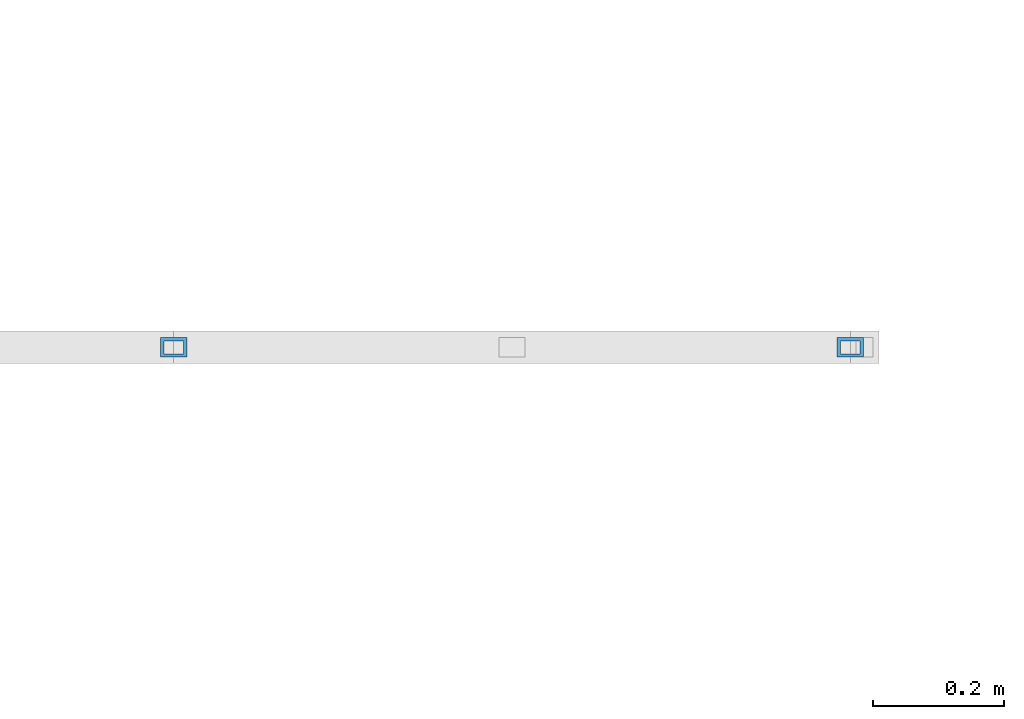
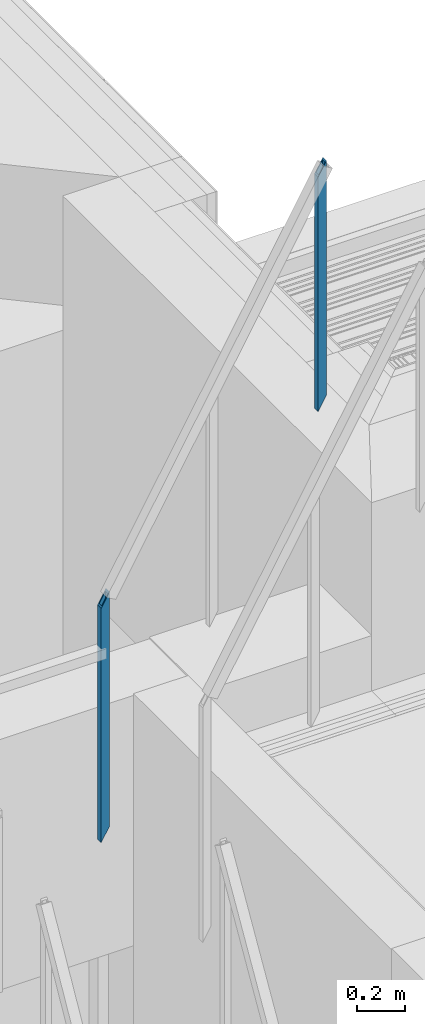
# One storey, part 10 of 418: 2 members, 1 element without a shape of its own.
"""IFC2X3 building model written with IfcOpenShell, lengths in millimetres."""

import ifcopenshell
import ifcopenshell.guid

model = None  # the IFC model being written
_history = None  # IfcOwnerHistory: only IFC2X3 demands one
_inside = {}  # id of a spatial element -> (the spatial element, [elements in it])
_under = {}  # id of a project, library or spatial element -> (it, [spatial elements below it])
_declared = {}  # id of a project -> (the project, [libraries it declares])
_typed = {}  # id of a type object -> (the type object, [elements of that type])
_made_of = {}  # id of a material, layer set ... -> (it, [elements and type objects made of it])


def new_model(schema):
    """Start an empty IFC model of exactly this schema.

    Asked for "IFC4X3", IfcOpenShell would pick the latest addendum, in which some entities
    have other attributes; the version numbers below select the first issue.
    IFC2X3 requires an IfcOwnerHistory on every rooted entity: one is made here for all.
    """
    global model, _history
    if schema == "IFC4X3":
        model = ifcopenshell.file(schema_version=(4, 3, 0, 0))
    else:
        model = ifcopenshell.file(schema=schema)
    _inside.clear()
    _under.clear()
    _declared.clear()
    _typed.clear()
    _made_of.clear()
    _history = None
    if model.schema == "IFC2X3":
        org = make("IfcOrganization", Name="unknown")
        user = make(
            "IfcPersonAndOrganization",
            ThePerson=make("IfcPerson", FamilyName="unknown"),
            TheOrganization=org,
        )
        app = make(
            "IfcApplication",
            ApplicationDeveloper=org,
            Version="unknown",
            ApplicationFullName="unknown",
            ApplicationIdentifier="unknown",
        )
        _history = make(
            "IfcOwnerHistory",
            OwningUser=user,
            OwningApplication=app,
            ChangeAction="ADDED",
            CreationDate=0,
        )
    return model


def make(cls, **values):
    """One entity of the class cls with the attributes given. An attribute that is None is left unset."""
    return model.create_entity(
        cls, **{name: value for name, value in values.items() if value is not None}
    )


def entity(cls, *values):
    """Any entity or typed value of the class cls, its attributes in the order of the schema. None: left unset."""
    e = model.create_entity(cls)
    for i, value in enumerate(values):
        if value is not None:
            e[i] = value
    return e


def rooted(cls, **values):
    """An entity with a GlobalId (a new one), such as an element, a storey or a relation."""
    return make(cls, GlobalId=ifcopenshell.guid.new(), OwnerHistory=_history, **values)


def si_unit(unit_type, name, prefix=None):
    """IfcSIUnit, for example si_unit("LENGTHUNIT", "METRE", prefix="MILLI")."""
    return make("IfcSIUnit", UnitType=unit_type, Prefix=prefix, Name=name)


def converted_unit(unit_type, name, factor, base, dimensions=None, offset=None):
    """IfcConversionBasedUnit, such as the inch: factor (a typed value) times the base unit."""
    return make(
        "IfcConversionBasedUnit"
        if offset is None
        else "IfcConversionBasedUnitWithOffset",
        ConversionOffset=offset,
        Dimensions=None
        if dimensions is None
        else entity("IfcDimensionalExponents", *dimensions),
        UnitType=unit_type,
        Name=name,
        ConversionFactor=make(
            "IfcMeasureWithUnit", ValueComponent=factor, UnitComponent=base
        ),
    )


def derived_unit(unit_type, elements):
    """IfcDerivedUnit: a product of units, each with its exponent."""
    return make(
        "IfcDerivedUnit",
        Elements=[
            make("IfcDerivedUnitElement", Unit=unit, Exponent=power)
            for unit, power in elements
        ],
        UnitType=unit_type,
    )


def money_unit(currency):
    """IfcMonetaryUnit."""
    return make("IfcMonetaryUnit", Currency=currency)


def assignment(units):
    """IfcUnitAssignment: the units of a project."""
    return None if units is None else make("IfcUnitAssignment", Units=units)


def point(xyz):
    """IfcCartesianPoint."""
    return None if xyz is None else make("IfcCartesianPoint", Coordinates=xyz)


def direction(xyz):
    """IfcDirection."""
    return None if xyz is None else make("IfcDirection", DirectionRatios=xyz)


def frame(location, z_axis=None, x_axis=None):
    """IfcAxis2Placement3D, a coordinate frame: its origin and axes. An axis left out is left unset."""
    return make(
        "IfcAxis2Placement3D",
        Location=point(location),
        Axis=direction(z_axis),
        RefDirection=direction(x_axis),
    )


def origin_with_axes():
    """The frame at (0, 0, 0) with the z axis (0, 0, 1) and the x axis (1, 0, 0) written out."""
    return frame((0.0, 0.0, 0.0), z_axis=(0.0, 0.0, 1.0), x_axis=(1.0, 0.0, 0.0))


def place(relative_to, where):
    """IfcLocalPlacement: puts the frame where relative to a parent placement (None: the world)."""
    return make(
        "IfcLocalPlacement", PlacementRelTo=relative_to, RelativePlacement=where
    )


def context(
    kind, dimensions, precision=None, world=None, true_north=None, identifier=None
):
    """IfcGeometricRepresentationContext, for example the 3D "Model" context."""
    return make(
        "IfcGeometricRepresentationContext",
        ContextIdentifier=identifier,
        ContextType=kind,
        CoordinateSpaceDimension=dimensions,
        Precision=precision,
        WorldCoordinateSystem=world,
        TrueNorth=true_north,
    )


def subcontext(parent, identifier, kind, view, scale=None):
    """IfcGeometricRepresentationSubContext, for example "Body" below "Model"."""
    return make(
        "IfcGeometricRepresentationSubContext",
        ContextIdentifier=identifier,
        ContextType=kind,
        ParentContext=parent,
        TargetScale=scale,
        TargetView=view,
    )


def project(units=None, contexts=None):
    """IfcProject with its units and contexts."""
    return rooted(
        "IfcProject",
        Name="project",
        RepresentationContexts=contexts,
        UnitsInContext=assignment(units),
    )


def spatial(cls, under=None, at=None, **own):
    """A site, building, storey or space (cls), placed at a placement, below another one or the project."""
    s = rooted(cls, ObjectPlacement=at, **own)
    if under is not None:
        _under.setdefault(under.id(), (under, []))[1].append(s)
    return s


def faces_of(points, faces, orient=None, outer=None):
    """IfcFace entities. A face is a list of loops; a loop is a list of indices into points, from 0.

    orient and outer hold one flag for each loop. By default every Orientation is true, the
    first loop of a face is its IfcFaceOuterBound and the others are IfcFaceBound.
    """
    made = []
    for i, loops in enumerate(faces):
        bounds = []
        for j, loop in enumerate(loops):
            is_outer = j == 0 if outer is None else outer[i][j]
            bounds.append(
                make(
                    "IfcFaceOuterBound" if is_outer else "IfcFaceBound",
                    Bound=make("IfcPolyLoop", Polygon=[points[k] for k in loop]),
                    Orientation=True if orient is None else orient[i][j],
                )
            )
        made.append(make("IfcFace", Bounds=bounds))
    return made


def faceted_brep(points, faces, orient=None, outer=None, voids=None):
    """IfcFacetedBrep: a solid bounded by flat faces; with voids (closed shells), ...WithVoids."""
    shared = [point(p) for p in points]
    hull = make("IfcClosedShell", CfsFaces=faces_of(shared, faces, orient, outer))
    if voids is None:
        return make("IfcFacetedBrep", Outer=hull)
    return make(
        "IfcFacetedBrepWithVoids",
        Outer=hull,
        Voids=[
            make(cls, CfsFaces=faces_of(shared, fs, o, b)) for cls, fs, o, b in voids
        ],
    )


def shape(context_of_items, identifier, shape_type, items):
    """IfcShapeRepresentation: the items that make up one representation, for example the "Body"."""
    return make(
        "IfcShapeRepresentation",
        ContextOfItems=context_of_items,
        RepresentationIdentifier=identifier,
        RepresentationType=shape_type,
        Items=items,
    )


def source(mapping_origin, context_of_items, identifier, shape_type, items):
    """IfcRepresentationMap: a shape defined once, which mapped items show again and again."""
    return make(
        "IfcRepresentationMap",
        MappingOrigin=mapping_origin,
        MappedRepresentation=shape(context_of_items, identifier, shape_type, items),
    )


def transform(
    local_origin,
    x_axis=None,
    y_axis=None,
    z_axis=None,
    scale=None,
    scale2=None,
    scale3=None,
    uniform=True,
):
    """IfcCartesianTransformationOperator3D, or its non-uniform kind. x_axis, y_axis, z_axis: its Axis1, 2, 3."""
    if uniform:
        return make(
            "IfcCartesianTransformationOperator3D",
            Axis1=direction(x_axis),
            Axis2=direction(y_axis),
            LocalOrigin=point(local_origin),
            Scale=scale,
            Axis3=direction(z_axis),
        )
    return make(
        "IfcCartesianTransformationOperator3DnonUniform",
        Axis1=direction(x_axis),
        Axis2=direction(y_axis),
        LocalOrigin=point(local_origin),
        Scale=scale,
        Axis3=direction(z_axis),
        Scale2=scale2,
        Scale3=scale3,
    )


def mapped(mapping_source, mapping_target):
    """IfcMappedItem: shows the shape of a source again, moved by a transform."""
    return make(
        "IfcMappedItem", MappingSource=mapping_source, MappingTarget=mapping_target
    )


def material(Name=None, Category=None):
    """IfcMaterial."""
    return make("IfcMaterial", Name=Name, Category=Category)


def made_of(thing, what):
    """Note that an element or type object is made of a material, layer set ...; save() writes the relation."""
    if what is not None:
        _made_of.setdefault(what.id(), (what, []))[1].append(thing)
    return thing


def type_object(cls, material=None, **own):
    """A type object (cls), such as IfcWallType, which elements share."""
    return made_of(rooted(cls, **own), material)


def element(
    cls,
    number,
    at=None,
    inside=None,
    cuts=None,
    type_object=None,
    material=None,
    context=None,
    identifier="Body",
    shape_type=None,
    held_by="IfcProductDefinitionShape",
    body=None,
    shapes=None,
    **own,
):
    """One element of the class cls, such as IfcWall. Its Tag is "e" and its number.

    at: its placement. inside: the storey or other place that contains it. cuts: it is an
    opening in that element (IfcRelVoidsElement). A single representation is given by context,
    identifier, shape_type and body (its items); several are given by shapes. held_by: the class
    of the entity that holds the representations. save() writes the other relations.
    """
    e = rooted(cls, Tag="e%d" % number, ObjectPlacement=at, **own)
    if body is not None:
        shapes = [shape(context, identifier, shape_type, body)]
    if shapes is not None:
        e.Representation = make(held_by, Representations=shapes)
    if inside is not None:
        _inside.setdefault(inside.id(), (inside, []))[1].append(e)
    if cuts is not None:
        rooted(
            "IfcRelVoidsElement", RelatingBuildingElement=cuts, RelatedOpeningElement=e
        )
    if type_object is not None:
        _typed.setdefault(type_object.id(), (type_object, []))[1].append(e)
    return made_of(e, material)


def aggregate(whole, parts):
    """IfcRelAggregates: a whole, such as a stair, and the parts it consists of."""
    return rooted("IfcRelAggregates", RelatingObject=whole, RelatedObjects=parts)


def save(model, path):
    """Write the relations noted so far, then the file.

    IfcRelAggregates (storeys below a building ...), IfcRelContainedInSpatialStructure (elements
    in a storey), IfcRelDefinesByType, IfcRelAssociatesMaterial and IfcRelDeclares: one each for
    every whole, place, type object, material and project.
    """
    for whole, parts in _under.values():
        aggregate(whole, parts)
    for where, things in _inside.values():
        rooted(
            "IfcRelContainedInSpatialStructure",
            RelatedElements=things,
            RelatingStructure=where,
        )
    for kind, things in _typed.values():
        rooted("IfcRelDefinesByType", RelatedObjects=things, RelatingType=kind)
    for what, things in _made_of.values():
        rooted("IfcRelAssociatesMaterial", RelatedObjects=things, RelatingMaterial=what)
    for by, libraries in _declared.values():
        rooted("IfcRelDeclares", RelatingContext=by, RelatedDefinitions=libraries)
    model.write(path)


model = new_model("IFC2X3")

# Units and contexts
model_context = context("Model", 3, precision=0.01, world=origin_with_axes(), true_north=direction((0.0, 1.0)))
body_context = subcontext(model_context, "Body", "Model", "MODEL_VIEW")
ifc_project = project(units=[si_unit("LENGTHUNIT", "METRE", prefix="MILLI"), si_unit("AREAUNIT", "SQUARE_METRE"), si_unit("VOLUMEUNIT", "CUBIC_METRE"), converted_unit("PLANEANGLEUNIT", "DEGREE", entity("IfcPlaneAngleMeasure", 0.0174532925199), si_unit("PLANEANGLEUNIT", "RADIAN"), dimensions=[0, 0, 0, 0, 0, 0, 0]), si_unit("SOLIDANGLEUNIT", "STERADIAN"), money_unit("EUR"), converted_unit("TIMEUNIT", "Year", entity("IfcTimeMeasure", 31556926.0), si_unit("TIMEUNIT", "SECOND"), dimensions=[0, 0, 1, 0, 0, 0, 0]), si_unit("MASSUNIT", "GRAM", prefix="KILO"), si_unit("THERMODYNAMICTEMPERATUREUNIT", "DEGREE_CELSIUS"), si_unit("LUMINOUSINTENSITYUNIT", "LUMEN"), si_unit("ENERGYUNIT", "JOULE", prefix="MEGA"), derived_unit("THERMALCONDUCTANCEUNIT", [(si_unit("POWERUNIT", "WATT"), 1), (si_unit("LENGTHUNIT", "METRE"), -1), (si_unit("THERMODYNAMICTEMPERATUREUNIT", "KELVIN"), -1)]), derived_unit("SPECIFICHEATCAPACITYUNIT", [(si_unit("ENERGYUNIT", "JOULE"), 1), (si_unit("MASSUNIT", "GRAM", prefix="KILO"), -1), (si_unit("THERMODYNAMICTEMPERATUREUNIT", "KELVIN"), -1)]), derived_unit("MASSDENSITYUNIT", [(si_unit("MASSUNIT", "GRAM", prefix="KILO"), 1), (si_unit("VOLUMEUNIT", "CUBIC_METRE"), -1)])], contexts=[model_context])

# Site, building, storey
site_placement = place(None, origin_with_axes())
site = spatial("IfcSite", under=ifc_project, at=site_placement, Name="Paldiski mnt 245/1, Tallinn, Harjumaa", CompositionType="COMPLEX")
building_placement = place(site_placement, origin_with_axes())
building = spatial("IfcBuilding", under=site, at=building_placement, Name="RKAS Hoone üldnimetus (kasutust iseloomustav) -> IFC Project Manager -> SOLIBRI", CompositionType="ELEMENT")
storey_placement = place(building_placement, origin_with_axes())
storey = spatial("IfcBuildingStorey", under=building, at=storey_placement, Name="Esimene korrus", CompositionType="ELEMENT", Elevation=0.0)

# Railing, members
railing_type = type_object("IfcRailingType", Name="Railing Type", PredefinedType="NOTDEFINED")
railing_placement = place(storey_placement, frame((-53974.8966499, -3578.67012715, 10477.0519033), z_axis=(0.0, 0.0, 1.0), x_axis=(-0.773149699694, -0.634223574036, 0.0)))
railing = element("IfcRailing", 1, at=railing_placement, inside=storey, type_object=railing_type, Name="PIIRE", PredefinedType="NOTDEFINED")
ifc_material = material(Name="ET-06_Teras - Konstruktsioon")
member_type = type_object("IfcMemberType", Name="IfcMember", PredefinedType="POST")
shared_shape = source(origin_with_axes(), body_context, "Body", "Brep", [
    faceted_brep([(15.0, 20.0, 35.0315338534), (-15.0, 20.0, 35.0315338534), (-15.0, 20.0, 1215.03153385), (15.0, 20.0, 1215.03153385), (15.0, -20.0, -35.0315338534), (-15.0, -20.0, -35.0315338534), (10.0, 15.0, 26.2736503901), (-10.0, 15.0, 26.2736503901), (-10.0, -15.0, -26.2736503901), (10.0, -15.0, -26.2736503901), (-15.0, -20.0, 1144.96846615), (15.0, -20.0, 1144.96846615), (10.0, 15.0, 1206.27365039), (10.0, -15.0, 1153.72634961), (-10.0, -15.0, 1153.72634961), (-10.0, 15.0, 1206.27365039)], [[[0, 1, 2, 3]], [[0, 4, 5, 1], [6, 7, 8, 9]], [[1, 5, 10, 2]], [[3, 2, 10, 11], [12, 13, 14, 15]], [[4, 0, 3, 11]], [[5, 4, 11, 10]], [[7, 6, 12, 15]], [[8, 7, 15, 14]], [[9, 8, 14, 13]], [[6, 9, 13, 12]]]),
])
member_1_placement = place(railing_placement, frame((0.0, 0.0, -100.0), z_axis=(0.0, 0.0, 1.0), x_axis=(-0.773149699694, 0.634223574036, 0.0)))
member_1 = element("IfcMember", 2, at=member_1_placement, type_object=member_type, material=ifc_material, Name="PIIRDE POST - 001", ObjectType="POST", context=body_context, shape_type="MappedRepresentation", body=[
    mapped(shared_shape, transform((0.0, 0.0, 0.0), x_axis=(0.0, -1.0, 0.0), y_axis=(1.0, 0.0, 0.0), z_axis=(0.0, 0.0, 1.0))),
])
member_2_placement = place(railing_placement, frame((-799.091887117, 655.504248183, 1710.34892121), z_axis=(0.0, 0.0, 1.0), x_axis=(-0.773149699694, 0.634223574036, 0.0)))
member_2 = element("IfcMember", 3, at=member_2_placement, type_object=member_type, material=ifc_material, Name="PIIRDE POST - 001", ObjectType="POST", context=body_context, shape_type="MappedRepresentation", body=[
    mapped(shared_shape, transform((0.0, 0.0, 0.0), x_axis=(0.0, -1.0, 0.0), y_axis=(1.0, 0.0, 0.0), z_axis=(0.0, 0.0, 1.0))),
])
aggregate(railing, [member_1, member_2])

save(model, "model.ifc")
